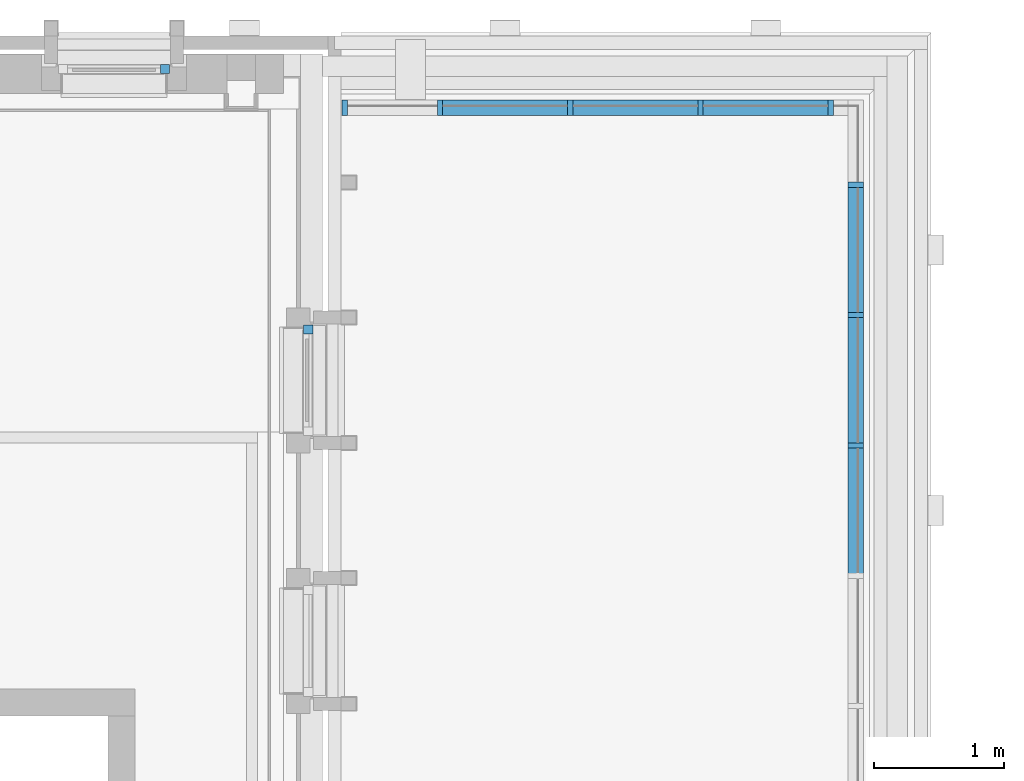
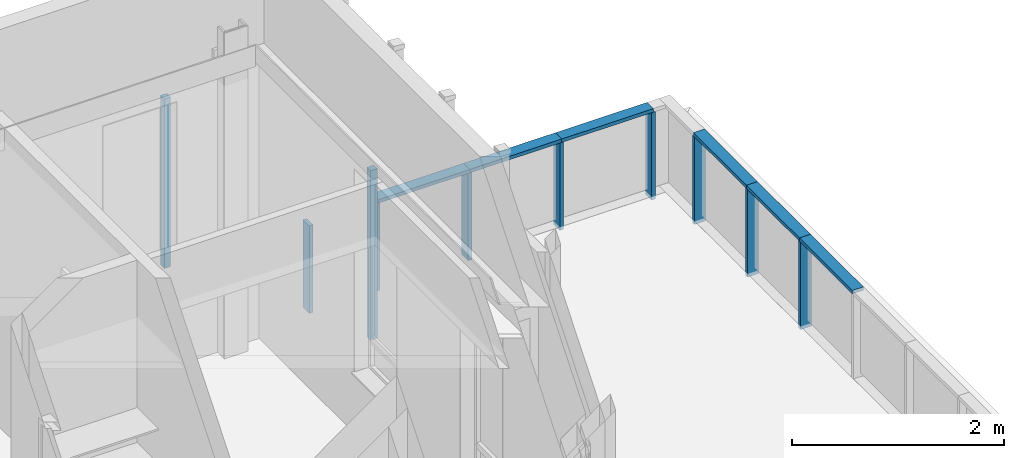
# One storey, part 7 of 118: 16 members, 4 elements without a shape of their own.
"""IFC2X3 building model written with IfcOpenShell, lengths in millimetres."""

from ifc_helpers import new_model, entity, si_unit, converted_unit, derived_unit, direction, frame, origin, origin_2d_with_axis, place, context, subcontext, project, spatial, rectangle, extrude, source, transform, mapped, material, material_list, type_object, type_shapes, element, aggregate, save


model = new_model("IFC2X3")

# Units and contexts
model_context = context("Model", 3, precision=0.01, world=origin(), true_north=direction((6.123031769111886e-17, 1.0)))
plan_context = context("Plan", 3, precision=0.01, world=origin(), true_north=direction((6.123031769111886e-17, 1.0)))
body_context = subcontext(model_context, "Body", "Model", "MODEL_VIEW")
ifc_project = project(units=[si_unit("LENGTHUNIT", "METRE", prefix="MILLI"), si_unit("AREAUNIT", "SQUARE_METRE"), si_unit("VOLUMEUNIT", "CUBIC_METRE"), converted_unit("PLANEANGLEUNIT", "DEGREE", entity("IfcRatioMeasure", 0.017453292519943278), si_unit("PLANEANGLEUNIT", "RADIAN"), dimensions=[0, 0, 0, 0, 0, 0, 0]), si_unit("MASSUNIT", "GRAM", prefix="KILO"), derived_unit("MASSDENSITYUNIT", [(si_unit("MASSUNIT", "GRAM", prefix="KILO"), 1), (si_unit("LENGTHUNIT", "METRE"), -3)]), derived_unit("IONCONCENTRATIONUNIT", [(si_unit("MASSUNIT", "GRAM", prefix="KILO"), 1), (si_unit("LENGTHUNIT", "METRE"), -3)]), derived_unit("MOMENTOFINERTIAUNIT", [(si_unit("LENGTHUNIT", "METRE"), 4)]), si_unit("TIMEUNIT", "SECOND"), si_unit("FREQUENCYUNIT", "HERTZ"), si_unit("THERMODYNAMICTEMPERATUREUNIT", "DEGREE_CELSIUS"), derived_unit("THERMALTRANSMITTANCEUNIT", [(si_unit("MASSUNIT", "GRAM", prefix="KILO"), 1), (si_unit("THERMODYNAMICTEMPERATUREUNIT", "KELVIN"), -1), (si_unit("TIMEUNIT", "SECOND"), -3)]), derived_unit("THERMALCONDUCTANCEUNIT", [(si_unit("MASSUNIT", "GRAM", prefix="KILO"), 1), (si_unit("THERMODYNAMICTEMPERATUREUNIT", "KELVIN"), -1), (si_unit("TIMEUNIT", "SECOND"), -3), (si_unit("LENGTHUNIT", "METRE"), 1)]), derived_unit("VOLUMETRICFLOWRATEUNIT", [(si_unit("LENGTHUNIT", "METRE"), 3), (si_unit("TIMEUNIT", "SECOND"), -1)]), derived_unit("MASSFLOWRATEUNIT", [(si_unit("MASSUNIT", "GRAM", prefix="KILO"), 1), (si_unit("TIMEUNIT", "SECOND"), -1)]), derived_unit("ROTATIONALFREQUENCYUNIT", [(si_unit("TIMEUNIT", "SECOND"), -1)]), si_unit("ELECTRICCURRENTUNIT", "AMPERE"), si_unit("ELECTRICVOLTAGEUNIT", "VOLT"), si_unit("POWERUNIT", "WATT"), si_unit("FORCEUNIT", "NEWTON", prefix="KILO"), si_unit("ILLUMINANCEUNIT", "LUX"), si_unit("LUMINOUSFLUXUNIT", "LUMEN"), si_unit("LUMINOUSINTENSITYUNIT", "CANDELA"), derived_unit("USERDEFINED", [(si_unit("MASSUNIT", "GRAM", prefix="KILO"), -1), (si_unit("LENGTHUNIT", "METRE"), -2), (si_unit("TIMEUNIT", "SECOND"), 3), (si_unit("LUMINOUSFLUXUNIT", "LUMEN"), 1)]), derived_unit("USERDEFINED", [(si_unit("MASSUNIT", "GRAM", prefix="KILO"), 1), (si_unit("TIMEUNIT", "SECOND"), -3), (si_unit("LENGTHUNIT", "METRE"), 3), (si_unit("ELECTRICCURRENTUNIT", "AMPERE"), -2)]), derived_unit("SOUNDPOWERUNIT", [(si_unit("MASSUNIT", "GRAM", prefix="KILO"), 1), (si_unit("TIMEUNIT", "SECOND"), -3), (si_unit("LENGTHUNIT", "METRE"), 2)]), derived_unit("SOUNDPRESSUREUNIT", [(si_unit("MASSUNIT", "GRAM", prefix="KILO"), 1), (si_unit("LENGTHUNIT", "METRE"), -1), (si_unit("TIMEUNIT", "SECOND"), -2)]), derived_unit("LINEARVELOCITYUNIT", [(si_unit("LENGTHUNIT", "METRE"), 1), (si_unit("TIMEUNIT", "SECOND"), -1)]), si_unit("PRESSUREUNIT", "PASCAL"), derived_unit("USERDEFINED", [(si_unit("MASSUNIT", "GRAM", prefix="KILO"), 1), (si_unit("LENGTHUNIT", "METRE"), -2), (si_unit("TIMEUNIT", "SECOND"), -2)]), derived_unit("LINEARFORCEUNIT", [(si_unit("MASSUNIT", "GRAM", prefix="KILO"), 1), (si_unit("TIMEUNIT", "SECOND"), -2)]), derived_unit("PLANARFORCEUNIT", [(si_unit("MASSUNIT", "GRAM", prefix="KILO"), 1), (si_unit("LENGTHUNIT", "METRE"), -1), (si_unit("TIMEUNIT", "SECOND"), -2)]), derived_unit("SPECIFICHEATCAPACITYUNIT", [(si_unit("THERMODYNAMICTEMPERATUREUNIT", "KELVIN"), -1), (si_unit("LENGTHUNIT", "METRE"), 2), (si_unit("TIMEUNIT", "SECOND"), -2)]), derived_unit("HEATINGVALUEUNIT", [(si_unit("LENGTHUNIT", "METRE"), 2), (si_unit("TIMEUNIT", "SECOND"), -2)]), derived_unit("VAPORPERMEABILITYUNIT", [(si_unit("LENGTHUNIT", "METRE"), -1), (si_unit("TIMEUNIT", "SECOND"), 1)]), derived_unit("DYNAMICVISCOSITYUNIT", [(si_unit("MASSUNIT", "GRAM", prefix="KILO"), 1), (si_unit("TIMEUNIT", "SECOND"), -1), (si_unit("LENGTHUNIT", "METRE"), -1)]), derived_unit("THERMALEXPANSIONCOEFFICIENTUNIT", [(si_unit("THERMODYNAMICTEMPERATUREUNIT", "KELVIN"), -1)]), derived_unit("MODULUSOFELASTICITYUNIT", [(si_unit("MASSUNIT", "GRAM", prefix="KILO"), 1), (si_unit("LENGTHUNIT", "METRE"), -1), (si_unit("TIMEUNIT", "SECOND"), -2)]), derived_unit("ISOTHERMALMOISTURECAPACITYUNIT", [(si_unit("LENGTHUNIT", "METRE"), 3), (si_unit("MASSUNIT", "GRAM", prefix="KILO"), -1)]), derived_unit("MOISTUREDIFFUSIVITYUNIT", [(si_unit("TIMEUNIT", "SECOND"), -1), (si_unit("LENGTHUNIT", "METRE"), 2)])], contexts=[model_context, plan_context])

# Site, building, storey
site_placement = place(None, origin())
site = spatial("IfcSite", under=ifc_project, at=site_placement, Name="Locatie", CompositionType="ELEMENT")
building_placement = place(site_placement, origin())
building = spatial("IfcBuilding", under=site, at=building_placement, Name="Bouwwerk", CompositionType="ELEMENT")
storey_placement = place(building_placement, frame((0.0, 0.0, 7800.0)))
storey = spatial("IfcBuildingStorey", under=building, at=storey_placement, Name="02 tweede verdieping", CompositionType="ELEMENT", Elevation=7800.000000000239)

# Curtain wall, member
curtain_wall_type_1 = type_object("IfcCurtainWallType", Name="Curtain Wall:NLRS_21_CW_Ontwerpkozijn_aluminium_RT72", PredefinedType="NOTDEFINED")
curtain_wall_1_placement = place(storey_placement, frame((0.0, 0.0, -7800.0)))
curtain_wall_1 = element("IfcCurtainWall", 1, at=curtain_wall_1_placement, inside=storey, type_object=curtain_wall_type_1, Name="Curtain Wall:NLRS_21_CW_Ontwerpkozijn_aluminium_RT72", ObjectType="Curtain Wall:NLRS_21_CW_Ontwerpkozijn_aluminium_RT72")
ifc_material_1 = material(Name="a_kozijn")
ifc_material_2 = material(Name="<Unnamed>")
ifc_material_list = material_list([ifc_material_2, ifc_material_1])
member_type_1 = type_object("IfcMemberType", Name="Rectangular Mullion:RT72_Hr_raam", PredefinedType="MULLION", material=ifc_material_list)
shared_shape_1 = source(origin(), body_context, "Body", "SweptSolid", [
    extrude(rectangle(XDim=71.99999999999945, YDim=68.00000000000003, at=origin_2d_with_axis()), frame((-34.0, -36.0, -1953.0), z_axis=(0.0, 0.0, 1.0), x_axis=(0.0, -1.0, 0.0)), (0.0, 0.0, 1.0), 1952.9999999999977),
])
type_shapes(member_type_1, [shared_shape_1])
member_1_placement = place(curtain_wall_1_placement, frame((34753.0, 32625.0, 10795.0), z_axis=(0.0, 0.0, 1.0), x_axis=(0.0, 1.0, 0.0)))
member_1 = element("IfcMember", 2, at=member_1_placement, type_object=member_type_1, material=ifc_material_1, Name="Rectangular Mullion:RT72_Hr_raam", ObjectType="Rectangular Mullion:RT72_Hr_raam", context=body_context, shape_type="MappedRepresentation", body=[
    mapped(shared_shape_1, transform((0.0, 0.0, 0.0), scale=1.0)),
])
aggregate(curtain_wall_1, [member_1])

curtain_wall_2_placement = place(storey_placement, frame((0.0, 0.0, -7800.0)))
curtain_wall_2 = element("IfcCurtainWall", 3, at=curtain_wall_2_placement, inside=storey, type_object=curtain_wall_type_1, Name="Curtain Wall:NLRS_21_CW_Ontwerpkozijn_aluminium_RT72", ObjectType="Curtain Wall:NLRS_21_CW_Ontwerpkozijn_aluminium_RT72")
member_type_2 = type_object("IfcMemberType", Name="Rectangular Mullion:RT72_Hl_raam", PredefinedType="MULLION", material=ifc_material_list)
shared_shape_2 = source(origin(), body_context, "Body", "SweptSolid", [
    extrude(rectangle(XDim=71.99999999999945, YDim=68.00000000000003, at=origin_2d_with_axis()), frame((-34.0, -36.0, -1953.0), z_axis=(0.0, 0.0, 1.0), x_axis=(0.0, -1.0, 0.0)), (0.0, 0.0, 1.0), 1952.9999999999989),
])
type_shapes(member_type_2, [shared_shape_2])
member_2_placement = place(curtain_wall_2_placement, frame((33725.0, 34553.0, 8842.0), z_axis=(0.0, 0.0, -1.0), x_axis=(1.0, 0.0, 0.0)))
member_2 = element("IfcMember", 4, at=member_2_placement, type_object=member_type_2, material=ifc_material_1, Name="Rectangular Mullion:RT72_Hl_raam", ObjectType="Rectangular Mullion:RT72_Hl_raam", context=body_context, shape_type="MappedRepresentation", body=[
    mapped(shared_shape_2, transform((0.0, 0.0, 0.0), scale=1.0)),
])
aggregate(curtain_wall_2, [member_2])

# Curtain wall, members
curtain_wall_type_2 = type_object("IfcCurtainWallType", Name="Curtain Wall:railing 120x40", PredefinedType="NOTDEFINED")
curtain_wall_3_placement = place(storey_placement, frame((0.0, 0.0, -7800.0)))
curtain_wall_3 = element("IfcCurtainWall", 5, at=curtain_wall_3_placement, inside=storey, type_object=curtain_wall_type_2, Name="Curtain Wall:railing 120x40", ObjectType="Curtain Wall:railing 120x40")
ifc_material_3 = material(Name="staal")
member_type_3 = type_object("IfcMemberType", Name="Rectangular Mullion:40x120 railing", PredefinedType="MULLION", material=ifc_material_3)
shared_shape_3 = source(origin(), body_context, "Body", "SweptSolid", [
    extrude(rectangle(XDim=120.0, YDim=40.0, at=origin_2d_with_axis()), frame((-20.0, 0.0, -1000.0), z_axis=(0.0, 0.0, 1.0), x_axis=(0.0, -1.0, 0.0)), (0.0, 0.0, 1.0), 1000.0000000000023),
])
type_shapes(member_type_3, [shared_shape_3])
member_3_placement = place(curtain_wall_3_placement, frame((38990.0, 32700.0, 9080.0), z_axis=(0.0, 1.0, 0.0), x_axis=(0.0, 0.0, 1.0)))
member_3 = element("IfcMember", 6, at=member_3_placement, type_object=member_type_3, material=ifc_material_3, Name="Rectangular Mullion:40x120 railing", ObjectType="Rectangular Mullion:40x120 railing", context=body_context, shape_type="MappedRepresentation", body=[
    mapped(shared_shape_3, transform((0.0, 0.0, 0.0), scale=1.0)),
])
member_4_placement = place(curtain_wall_3_placement, frame((38990.0, 31700.0, 9080.0), z_axis=(0.0, 1.0, 0.0), x_axis=(0.0, 0.0, 1.0)))
member_4 = element("IfcMember", 7, at=member_4_placement, type_object=member_type_3, material=ifc_material_3, Name="Rectangular Mullion:40x120 railing", ObjectType="Rectangular Mullion:40x120 railing", context=body_context, shape_type="MappedRepresentation", body=[
    mapped(shared_shape_3, transform((0.0, 0.0, 0.0), scale=1.0)),
])
member_5_placement = place(curtain_wall_3_placement, frame((38990.0, 33700.0, 9080.0), z_axis=(0.0, 1.0, 0.0), x_axis=(0.0, 0.0, 1.0)))
member_5 = element("IfcMember", 8, at=member_5_placement, type_object=member_type_3, material=ifc_material_3, Name="Rectangular Mullion:40x120 railing", ObjectType="Rectangular Mullion:40x120 railing", context=body_context, shape_type="MappedRepresentation", body=[
    mapped(shared_shape_3, transform((0.0, 0.0, 0.0), scale=1.0)),
])

curtain_wall_4_placement = place(storey_placement, frame((0.0, 0.0, -7800.0)))
curtain_wall_4 = element("IfcCurtainWall", 9, at=curtain_wall_4_placement, inside=storey, type_object=curtain_wall_type_2, Name="Curtain Wall:railing 120x40", ObjectType="Curtain Wall:railing 120x40")
member_6_placement = place(curtain_wall_4_placement, frame((37800.0, 34290.0, 9080.0), z_axis=(-1.0, 0.0, 0.0), x_axis=(0.0, 0.0, 1.0)))
member_6 = element("IfcMember", 10, at=member_6_placement, type_object=member_type_3, material=ifc_material_3, Name="Rectangular Mullion:40x120 railing", ObjectType="Rectangular Mullion:40x120 railing", context=body_context, shape_type="MappedRepresentation", body=[
    mapped(shared_shape_3, transform((0.0, 0.0, 0.0), scale=1.0)),
])
member_7_placement = place(curtain_wall_4_placement, frame((35800.0, 34290.0, 9080.0), z_axis=(-1.0, 0.0, 0.0), x_axis=(0.0, 0.0, 1.0)))
member_7 = element("IfcMember", 11, at=member_7_placement, type_object=member_type_3, material=ifc_material_3, Name="Rectangular Mullion:40x120 railing", ObjectType="Rectangular Mullion:40x120 railing", context=body_context, shape_type="MappedRepresentation", body=[
    mapped(shared_shape_3, transform((0.0, 0.0, 0.0), scale=1.0)),
])
member_8_placement = place(curtain_wall_4_placement, frame((36800.0, 34290.0, 9080.0), z_axis=(-1.0, 0.0, 0.0), x_axis=(0.0, 0.0, 1.0)))
member_8 = element("IfcMember", 12, at=member_8_placement, type_object=member_type_3, material=ifc_material_3, Name="Rectangular Mullion:40x120 railing", ObjectType="Rectangular Mullion:40x120 railing", context=body_context, shape_type="MappedRepresentation", body=[
    mapped(shared_shape_3, transform((0.0, 0.0, 0.0), scale=1.0)),
])

# Member
member_type_4 = type_object("IfcMemberType", Name="Rectangular Mullion:40x120 railing", PredefinedType="MULLION", material=ifc_material_3)
shared_shape_4 = source(origin(), body_context, "Body", "SweptSolid", [
    extrude(rectangle(XDim=120.0, YDim=40.0, at=origin_2d_with_axis()), frame((0.0, 0.0, -1007.0), z_axis=(0.0, 0.0, 1.0), x_axis=(0.0, -1.0, 0.0)), (0.0, 0.0, 1.0), 1007.0000000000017),
])
type_shapes(member_type_4, [shared_shape_4])
member_9_placement = place(curtain_wall_3_placement, frame((38990.0, 32700.0, 8033.0), z_axis=(0.0, 0.0, -1.0), x_axis=(0.0, 1.0, 0.0)))
member_9 = element("IfcMember", 13, at=member_9_placement, type_object=member_type_4, material=ifc_material_3, Name="Rectangular Mullion:40x120 railing", ObjectType="Rectangular Mullion:40x120 railing", context=body_context, shape_type="MappedRepresentation", body=[
    mapped(shared_shape_4, transform((0.0, 0.0, 0.0), scale=1.0)),
])

member_10_placement = place(curtain_wall_3_placement, frame((38990.0, 31700.0, 8033.0), z_axis=(0.0, 0.0, -1.0), x_axis=(0.0, 1.0, 0.0)))
member_10 = element("IfcMember", 14, at=member_10_placement, type_object=member_type_4, material=ifc_material_3, Name="Rectangular Mullion:40x120 railing", ObjectType="Rectangular Mullion:40x120 railing", context=body_context, shape_type="MappedRepresentation", body=[
    mapped(shared_shape_4, transform((0.0, 0.0, 0.0), scale=1.0)),
])

member_11_placement = place(curtain_wall_3_placement, frame((38990.0, 33700.0, 8033.0), z_axis=(0.0, 0.0, -1.0), x_axis=(0.0, 1.0, 0.0)))
member_11 = element("IfcMember", 15, at=member_11_placement, type_object=member_type_4, material=ifc_material_3, Name="Rectangular Mullion:40x120 railing", ObjectType="Rectangular Mullion:40x120 railing", context=body_context, shape_type="MappedRepresentation", body=[
    mapped(shared_shape_4, transform((0.0, 0.0, 0.0), scale=1.0)),
])

aggregate(curtain_wall_3, [member_3, member_9, member_4, member_10, member_5, member_11])

member_12_placement = place(curtain_wall_4_placement, frame((37800.0, 34290.0, 8033.0), z_axis=(0.0, 0.0, -1.0), x_axis=(-1.0, 0.0, 0.0)))
member_12 = element("IfcMember", 16, at=member_12_placement, type_object=member_type_4, material=ifc_material_3, Name="Rectangular Mullion:40x120 railing", ObjectType="Rectangular Mullion:40x120 railing", context=body_context, shape_type="MappedRepresentation", body=[
    mapped(shared_shape_4, transform((0.0, 0.0, 0.0), scale=1.0)),
])

member_13_placement = place(curtain_wall_4_placement, frame((35800.0, 34290.0, 8033.0), z_axis=(0.0, 0.0, -1.0), x_axis=(-1.0, 0.0, 0.0)))
member_13 = element("IfcMember", 17, at=member_13_placement, type_object=member_type_4, material=ifc_material_3, Name="Rectangular Mullion:40x120 railing", ObjectType="Rectangular Mullion:40x120 railing", context=body_context, shape_type="MappedRepresentation", body=[
    mapped(shared_shape_4, transform((0.0, 0.0, 0.0), scale=1.0)),
])

member_14_placement = place(curtain_wall_4_placement, frame((36800.0, 34290.0, 8033.0), z_axis=(0.0, 0.0, -1.0), x_axis=(-1.0, 0.0, 0.0)))
member_14 = element("IfcMember", 18, at=member_14_placement, type_object=member_type_4, material=ifc_material_3, Name="Rectangular Mullion:40x120 railing", ObjectType="Rectangular Mullion:40x120 railing", context=body_context, shape_type="MappedRepresentation", body=[
    mapped(shared_shape_4, transform((0.0, 0.0, 0.0), scale=1.0)),
])

member_15_placement = place(curtain_wall_4_placement, frame((38800.0, 34290.0, 8033.0), z_axis=(0.0, 0.0, -1.0), x_axis=(-1.0, 0.0, 0.0)))
member_15 = element("IfcMember", 19, at=member_15_placement, type_object=member_type_4, material=ifc_material_3, Name="Rectangular Mullion:40x120 railing", ObjectType="Rectangular Mullion:40x120 railing", context=body_context, shape_type="MappedRepresentation", body=[
    mapped(shared_shape_4, transform((0.0, 0.0, 0.0), scale=1.0)),
])

member_type_5 = type_object("IfcMemberType", Name="Rectangular Mullion:40x120 railing", PredefinedType="MULLION", material=ifc_material_3)
shared_shape_5 = source(origin(), body_context, "Body", "SweptSolid", [
    extrude(rectangle(XDim=120.0, YDim=40.0, at=origin_2d_with_axis()), frame((-20.0, 0.0, -1007.0), z_axis=(0.0, 0.0, 1.0), x_axis=(0.0, -1.0, 0.0)), (0.0, 0.0, 1.0), 1007.0000000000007),
])
type_shapes(member_type_5, [shared_shape_5])
member_16_placement = place(curtain_wall_4_placement, frame((35050.0, 34290.0, 8033.0), z_axis=(0.0, 0.0, -1.0), x_axis=(-1.0, 0.0, 0.0)))
member_16 = element("IfcMember", 20, at=member_16_placement, type_object=member_type_5, material=ifc_material_3, Name="Rectangular Mullion:40x120 railing", ObjectType="Rectangular Mullion:40x120 railing", context=body_context, shape_type="MappedRepresentation", body=[
    mapped(shared_shape_5, transform((0.0, 0.0, 0.0), scale=1.0)),
])

aggregate(curtain_wall_4, [member_16, member_6, member_12, member_7, member_13, member_8, member_14, member_15])

save(model, "model.ifc")
